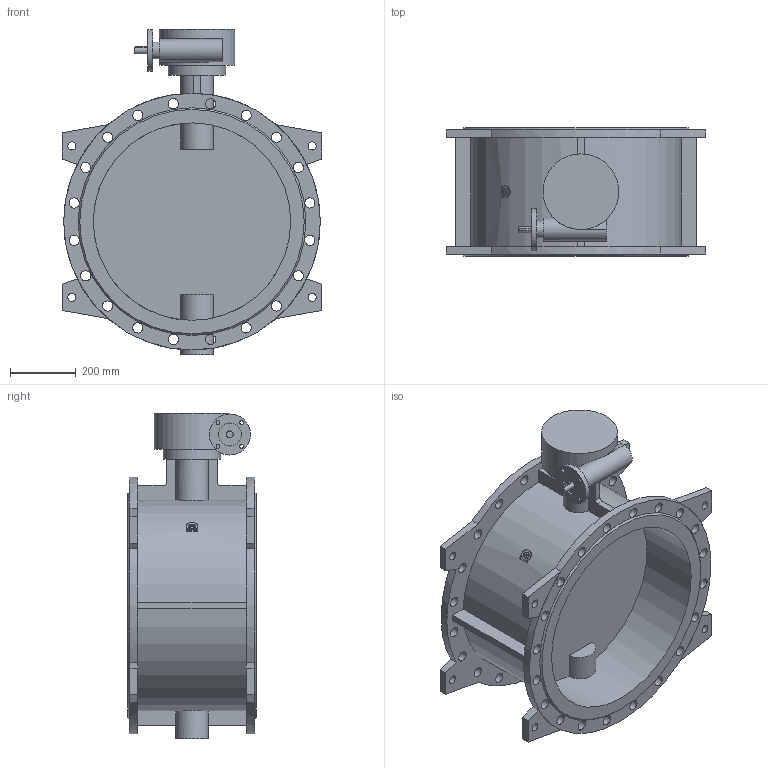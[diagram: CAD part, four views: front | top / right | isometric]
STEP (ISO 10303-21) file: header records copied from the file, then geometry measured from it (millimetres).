
FILE_DESCRIPTION(('STEP AP203'), '1');
FILE_NAME('Çàòâîð 023F.Z DN200 PN10_ð-ð_ôë', '', ('UNSPECIFIED'), ('UNSPECIFIED'), 'ASCON STEP Converter 1.6', 'ASCON Math Kernel', '');
FILE_SCHEMA(('CONFIG_CONTROL_DESIGN'));
Length unit declared in the file: millimetre
Bounding box: 790 x 390 x 990 mm (x, y, z)
Volume: 49119750.6 mm3; surface area: 3298289.7 mm2
Topology: 1 solids, 1 shells, 187 faces, 484 edges, 322 vertices
Faces by surface type: plane 95, cylinder 90, cone 2
Full cylindrical faces by diameter (mm): 12 x4, 14 x4, 18 x4, 20 x1, 25 x8, 31 x40, 50 x1, 70 x2, 100 x1, 125 x1, 175 x1, 230 x1, 600 x2, 780 x2
Entity records: 8120 total; most frequent: CARTESIAN_POINT 1969, DIRECTION 957, ORIENTED_EDGE 812, EDGE_CURVE 406, EDGE_LOOP 389, AXIS2_PLACEMENT_3D 383, VERTEX_POINT 321, FACE_BOUND 246
